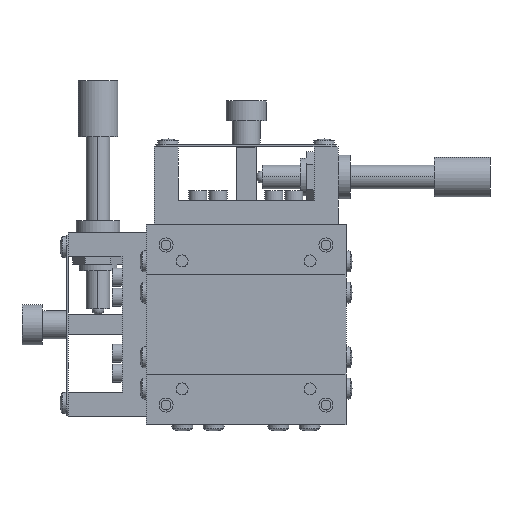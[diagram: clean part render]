
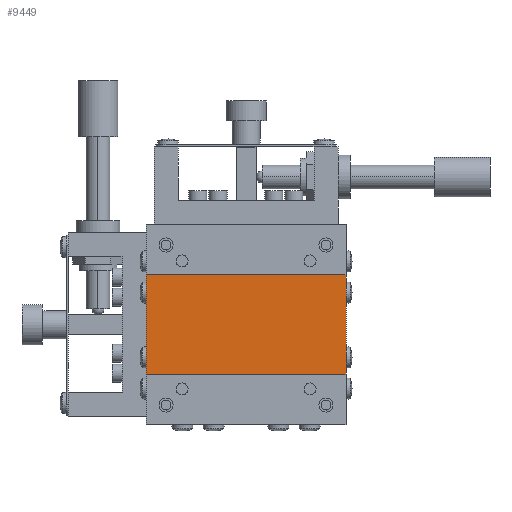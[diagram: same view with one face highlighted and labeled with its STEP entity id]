
A CAD part, front view. The second image highlights one B-rep face of the part: STEP entity #9449.
In plain terms, the highlighted planar face has unit normal (0, -1, 0).
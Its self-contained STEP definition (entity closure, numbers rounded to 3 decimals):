
#2981 = DIRECTION ( 'NONE',  ( 0., 0., -1. ) ) ;
#2982 = VECTOR ( 'NONE', #2981, 1000. ) ;
#2983 = CARTESIAN_POINT ( 'NONE',  ( 25., 0.3, -12.5 ) ) ;
#2986 = LINE ( 'NONE', #2983, #2982 ) ;
#3414 = CARTESIAN_POINT ( 'NONE',  ( 25., 0.3, 12.5 ) ) ;
#3416 = DIRECTION ( 'NONE',  ( -1., 0., 0. ) ) ;
#3417 = VECTOR ( 'NONE', #3416, 1000. ) ;
#3419 = CARTESIAN_POINT ( 'NONE',  ( 25., 0.3, 12.5 ) ) ;
#3421 = LINE ( 'NONE', #3419, #3417 ) ;
#3575 = LINE ( 'NONE', #3951, #3950 ) ;
#3670 = DIRECTION ( 'NONE',  ( 0., 0., 1. ) ) ;
#3672 = DIRECTION ( 'NONE',  ( 0., 1., 0. ) ) ;
#3673 = CARTESIAN_POINT ( 'NONE',  ( 25., 0.3, -12.5 ) ) ;
#3804 = AXIS2_PLACEMENT_3D ( 'NONE', #3673, #3672, #3670 ) ;
#3806 = PLANE ( 'NONE',  #3804 ) ;
#3810 = FACE_OUTER_BOUND ( 'NONE', #9376, .T. ) ;
#3948 = DIRECTION ( 'NONE',  ( 0., 0., -1. ) ) ;
#3950 = VECTOR ( 'NONE', #3948, 1000. ) ;
#3951 = CARTESIAN_POINT ( 'NONE',  ( -25., 0.3, -12.5 ) ) ;
#4036 = LINE ( 'NONE', #4052, #4051 ) ;
#4051 = VECTOR ( 'NONE', #4176, 1000. ) ;
#4052 = CARTESIAN_POINT ( 'NONE',  ( 25., 0.3, -12.5 ) ) ;
#4168 = CARTESIAN_POINT ( 'NONE',  ( -25., 0.3, 12.5 ) ) ;
#4170 = CARTESIAN_POINT ( 'NONE',  ( -25., 0.3, -12.5 ) ) ;
#4175 = CARTESIAN_POINT ( 'NONE',  ( 25., 0.3, -12.5 ) ) ;
#4176 = DIRECTION ( 'NONE',  ( -1., 0., 0. ) ) ;
#9248 = ORIENTED_EDGE ( 'NONE', *, *, #9398, .T. ) ;
#9299 = EDGE_CURVE ( 'NONE', #9300, #9506, #3421, .T. ) ;
#9300 = VERTEX_POINT ( 'NONE', #3414 ) ;
#9376 = EDGE_LOOP ( 'NONE', ( #9248, #9400, #9426, #9379 ) ) ;
#9377 = EDGE_CURVE ( 'NONE', #9300, #9500, #2986, .T. ) ;
#9379 = ORIENTED_EDGE ( 'NONE', *, *, #9299, .T. ) ;
#9398 = EDGE_CURVE ( 'NONE', #9506, #9503, #3575, .T. ) ;
#9400 = ORIENTED_EDGE ( 'NONE', *, *, #9498, .F. ) ;
#9426 = ORIENTED_EDGE ( 'NONE', *, *, #9377, .F. ) ;
#9449 = ADVANCED_FACE ( 'NONE', ( #3810 ), #3806, .F. ) ;
#9498 = EDGE_CURVE ( 'NONE', #9500, #9503, #4036, .T. ) ;
#9500 = VERTEX_POINT ( 'NONE', #4175 ) ;
#9503 = VERTEX_POINT ( 'NONE', #4170 ) ;
#9506 = VERTEX_POINT ( 'NONE', #4168 ) ;
